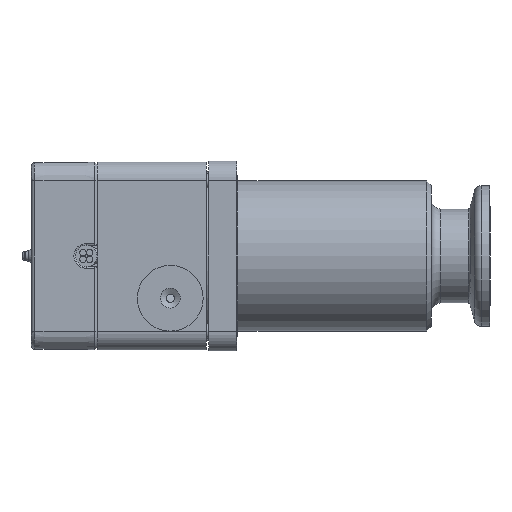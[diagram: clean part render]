
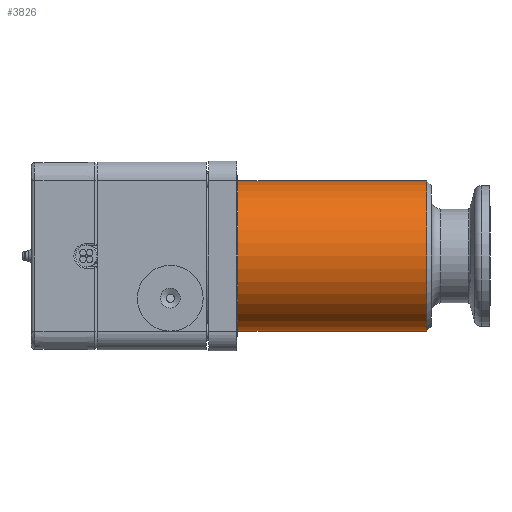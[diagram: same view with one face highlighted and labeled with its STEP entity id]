
A CAD part, left-side view. The second image highlights one B-rep face of the part: STEP entity #3826.
In plain terms, the highlighted cylindrical face has radius 16 mm (diameter 32 mm), a full revolution.
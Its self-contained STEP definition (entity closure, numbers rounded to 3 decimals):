
#1353=B_SPLINE_CURVE_WITH_KNOTS('',3,(#15228,#15229,#15230,#15231,#15232,
#15233,#15234,#15235,#15236,#15237,#15238,#15239,#15240,#15241,#15242,#15243,
#15244,#15245),.UNSPECIFIED.,.T.,.F.,(2,2,2,2,2,2,2,2,2,2,2),(-0.125,0.,
0.125,0.25,0.375,0.5,0.625,0.75,0.875,1.,1.125),.UNSPECIFIED.);
#3826=ADVANCED_FACE('',(#4326,#4327,#4328),#3987,.T.);
#3987=CYLINDRICAL_SURFACE('',#10049,16.);
#4326=FACE_BOUND('',#5010,.T.);
#4327=FACE_BOUND('',#5011,.T.);
#4328=FACE_BOUND('',#5012,.T.);
#5010=EDGE_LOOP('',(#6966));
#5011=EDGE_LOOP('',(#6967));
#5012=EDGE_LOOP('',(#6968));
#6966=ORIENTED_EDGE('',*,*,#8880,.T.);
#6967=ORIENTED_EDGE('',*,*,#8881,.T.);
#6968=ORIENTED_EDGE('',*,*,#8882,.T.);
#7868=VERTEX_POINT('',#15225);
#7869=VERTEX_POINT('',#15227);
#7870=VERTEX_POINT('',#15246);
#8880=EDGE_CURVE('',#7868,#7868,#9295,.T.);
#8881=EDGE_CURVE('',#7869,#7869,#9296,.T.);
#8882=EDGE_CURVE('',#7870,#7870,#1353,.T.);
#9295=CIRCLE('',#10047,16.);
#9296=CIRCLE('',#10048,16.);
#10047=AXIS2_PLACEMENT_3D('',#15224,#12142,#12143);
#10048=AXIS2_PLACEMENT_3D('',#15226,#12144,#12145);
#10049=AXIS2_PLACEMENT_3D('',#15247,#12146,#12147);
#12142=DIRECTION('',(1.,0.,0.));
#12143=DIRECTION('',(0.,0.,-1.));
#12144=DIRECTION('',(-1.,0.,0.));
#12145=DIRECTION('',(0.,0.,1.));
#12146=DIRECTION('',(-1.,0.,0.));
#12147=DIRECTION('',(0.,0.,1.));
#15224=CARTESIAN_POINT('',(13.5,0.,0.));
#15225=CARTESIAN_POINT('',(13.5,0.,-16.));
#15226=CARTESIAN_POINT('',(53.7,0.,0.));
#15227=CARTESIAN_POINT('',(53.7,0.,16.));
#15228=CARTESIAN_POINT('',(28.398,14.832,-6.));
#15229=CARTESIAN_POINT('',(31.602,14.832,-6.));
#15230=CARTESIAN_POINT('',(33.147,15.126,-5.339));
#15231=CARTESIAN_POINT('',(35.339,15.729,-3.146));
#15232=CARTESIAN_POINT('',(35.999,16.,-1.586));
#15233=CARTESIAN_POINT('',(36.001,16.,1.578));
#15234=CARTESIAN_POINT('',(35.342,15.729,3.145));
#15235=CARTESIAN_POINT('',(33.139,15.124,5.345));
#15236=CARTESIAN_POINT('',(31.579,14.833,5.999));
#15237=CARTESIAN_POINT('',(28.425,14.832,6.001));
#15238=CARTESIAN_POINT('',(26.867,15.122,5.353));
#15239=CARTESIAN_POINT('',(24.647,15.733,3.132));
#15240=CARTESIAN_POINT('',(24.,16.,1.58));
#15241=CARTESIAN_POINT('',(24.,16.,-1.584));
#15242=CARTESIAN_POINT('',(24.659,15.729,-3.146));
#15243=CARTESIAN_POINT('',(26.861,15.124,-5.345));
#15244=CARTESIAN_POINT('',(28.398,14.832,-6.));
#15245=CARTESIAN_POINT('',(31.602,14.832,-6.));
#15246=CARTESIAN_POINT('',(30.,14.832,-6.));
#15247=CARTESIAN_POINT('',(0.,0.,0.));
